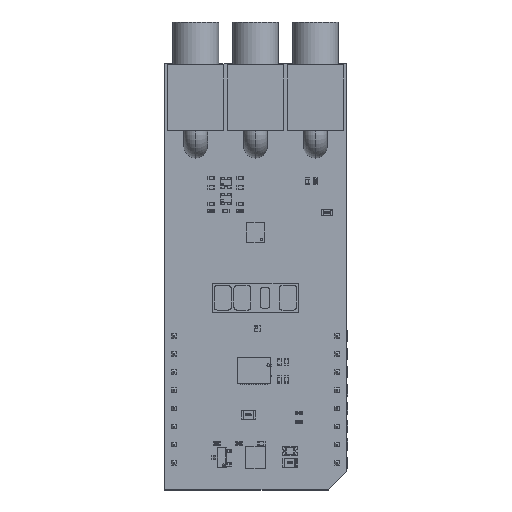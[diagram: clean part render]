
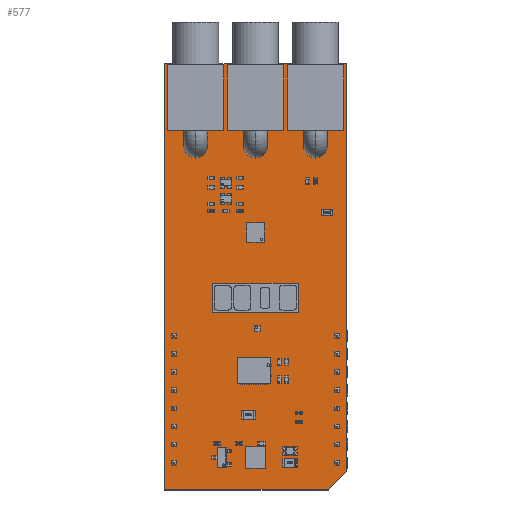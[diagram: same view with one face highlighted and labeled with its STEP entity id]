
A CAD part, top view. The second image highlights one B-rep face of the part: STEP entity #577.
In plain terms, the highlighted planar face has unit normal (0, 0, 1).
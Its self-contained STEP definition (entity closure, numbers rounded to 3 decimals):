
#416 = VERTEX_POINT('',#417);
#417 = CARTESIAN_POINT('',(-1.27,-3.81,1.65));
#423 = EDGE_CURVE('',#416,#424,#426,.T.);
#424 = VERTEX_POINT('',#425);
#425 = CARTESIAN_POINT('',(21.59,-3.81,1.65));
#426 = LINE('',#427,#428);
#427 = CARTESIAN_POINT('',(-1.27,-3.81,1.65));
#428 = VECTOR('',#429,1.);
#429 = DIRECTION('',(1.,0.,0.));
#454 = EDGE_CURVE('',#424,#455,#457,.T.);
#455 = VERTEX_POINT('',#456);
#456 = CARTESIAN_POINT('',(24.13,-1.27,1.65));
#457 = LINE('',#458,#459);
#458 = CARTESIAN_POINT('',(21.59,-3.81,1.65));
#459 = VECTOR('',#460,1.);
#460 = DIRECTION('',(0.707,0.707,0.));
#485 = EDGE_CURVE('',#455,#486,#488,.T.);
#486 = VERTEX_POINT('',#487);
#487 = CARTESIAN_POINT('',(24.13,55.88,1.65));
#488 = LINE('',#489,#490);
#489 = CARTESIAN_POINT('',(24.13,-1.27,1.65));
#490 = VECTOR('',#491,1.);
#491 = DIRECTION('',(0.,1.,0.));
#516 = EDGE_CURVE('',#486,#517,#519,.T.);
#517 = VERTEX_POINT('',#518);
#518 = CARTESIAN_POINT('',(-1.27,55.88,1.65));
#519 = LINE('',#520,#521);
#520 = CARTESIAN_POINT('',(24.13,55.88,1.65));
#521 = VECTOR('',#522,1.);
#522 = DIRECTION('',(-1.,0.,0.));
#547 = EDGE_CURVE('',#517,#416,#548,.T.);
#548 = LINE('',#549,#550);
#549 = CARTESIAN_POINT('',(-1.27,55.88,1.65));
#550 = VECTOR('',#551,1.);
#551 = DIRECTION('',(0.,-1.,0.));
#577 = ADVANCED_FACE('',(#578),#585,.T.);
#578 = FACE_BOUND('',#579,.T.);
#579 = EDGE_LOOP('',(#580,#581,#582,#583,#584));
#580 = ORIENTED_EDGE('',*,*,#423,.T.);
#581 = ORIENTED_EDGE('',*,*,#454,.T.);
#582 = ORIENTED_EDGE('',*,*,#485,.T.);
#583 = ORIENTED_EDGE('',*,*,#516,.T.);
#584 = ORIENTED_EDGE('',*,*,#547,.T.);
#585 = PLANE('',#586);
#586 = AXIS2_PLACEMENT_3D('',#587,#588,#589);
#587 = CARTESIAN_POINT('',(11.31,26.306,1.65));
#588 = DIRECTION('',(0.,0.,1.));
#589 = DIRECTION('',(1.,0.,-0.));
